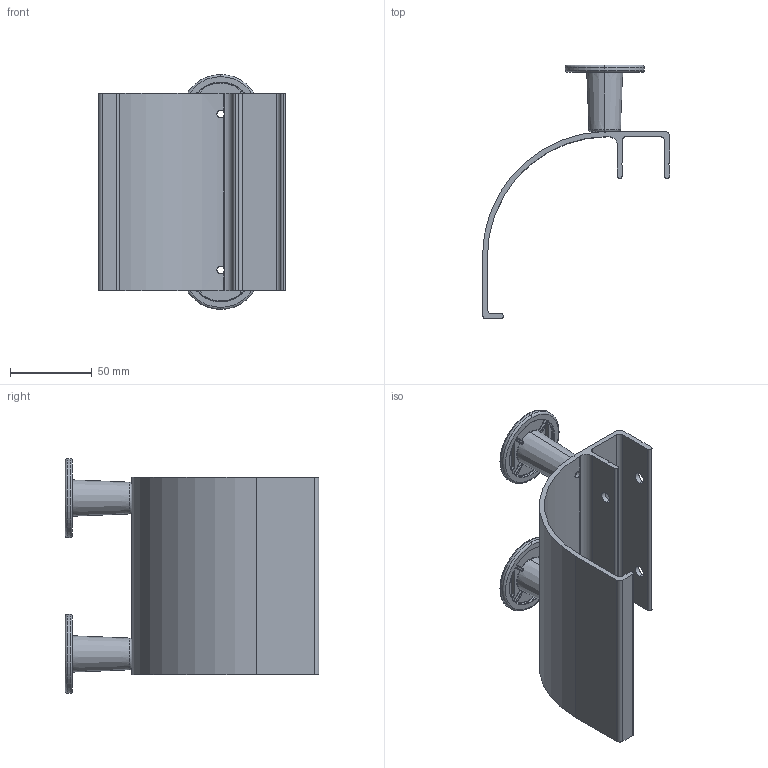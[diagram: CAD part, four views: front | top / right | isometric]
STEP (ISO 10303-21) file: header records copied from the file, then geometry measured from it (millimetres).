
FILE_DESCRIPTION (( 'STEP AP203' ), '1' );
FILE_NAME ('lrd6w.STEP', '2019-01-10T18:38:16', ( '' ), ( '' ), 'SwSTEP 2.0', 'SolidWorks 2016', '' );
FILE_SCHEMA (( 'CONFIG_CONTROL_DESIGN' ));
Length unit declared in the file: inch
Products named in the file (3): 89170352; lrd6w; 89170358
Assembly tree (3 placements, depth 2):
  lrd6w
    89170358
    89170352  x2
Bounding box: 114.3 x 154.94 x 143.51 mm (x, y, z)
Volume: 121224.6 mm3; surface area: 78650.3 mm2
Topology: 3 solids, 3 shells, 361 faces, 899 edges, 508 vertices
Faces by surface type: cylinder 104, plane 73, torus 70, bspline 64, sphere 32, cone 18
Entity records: 7612 total; most frequent: CARTESIAN_POINT 2191, ORIENTED_EDGE 1108, DIRECTION 1070, EDGE_CURVE 554, AXIS2_PLACEMENT_3D 443, VERTEX_POINT 333, CIRCLE 250, EDGE_LOOP 231
